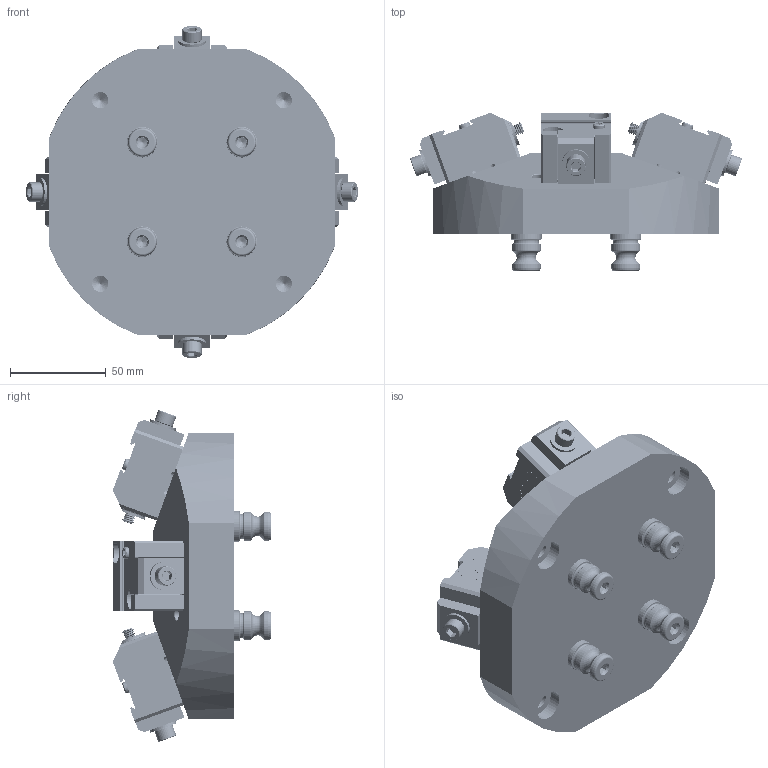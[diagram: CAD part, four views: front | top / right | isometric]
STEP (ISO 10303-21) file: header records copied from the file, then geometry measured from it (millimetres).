
FILE_DESCRIPTION (( 'STEP AP214' ), '1' );
FILE_NAME ('R52-P4DM25.STEP', '2019-05-12T18:18:03', ( '' ), ( '' ), 'SwSTEP 2.0', 'SolidWorks 2018', '' );
FILE_SCHEMA (( 'AUTOMOTIVE_DESIGN' ));
Length unit declared in the file: millimetre
Products named in the file (15): DM25; 76172_91290A326; LP6_LP6; HW.16101; HW.LCM110E01M; SLD25_SLD25; HW.M6.FW; 76200_91290A206; CDS25M; DM25-1; PS16F; HW.39858.CPSS_M8X1.25X20MM; PS16F-1_PS16F; P4DM25-1_ER COLLET FIXTURE PYRAMID; R52-P4DM25
Assembly tree (23 placements, depth 3):
  R52-P4DM25
    P4DM25-1_ER COLLET FIXTURE PYRAMID
    PS16F  x4
      PS16F-1_PS16F
      HW.39858.CPSS_M8X1.25X20MM
    DM25  x4
      DM25-1
      CDS25M
      76200_91290A206
      HW.M6.FW
      SLD25_SLD25
      HW.LCM110E01M
      HW.16101
      LP6_LP6
      76172_91290A326
Bounding box: 173.59 x 82.79 x 173.59 mm (x, y, z)
Volume: 793365.5 mm3; surface area: 162014 mm2
Topology: 57 solids, 57 shells, 5430 faces, 14340 edges, 9280 vertices
Faces by surface type: cylinder 2292, plane 1946, bspline 544, cone 540, torus 108
Entity records: 63138 total; most frequent: CARTESIAN_POINT 27044, ORIENTED_EDGE 6882, DIRECTION 5522, EDGE_CURVE 3441, VERTEX_POINT 2227, AXIS2_PLACEMENT_3D 1845, LINE 1832, VECTOR 1832
